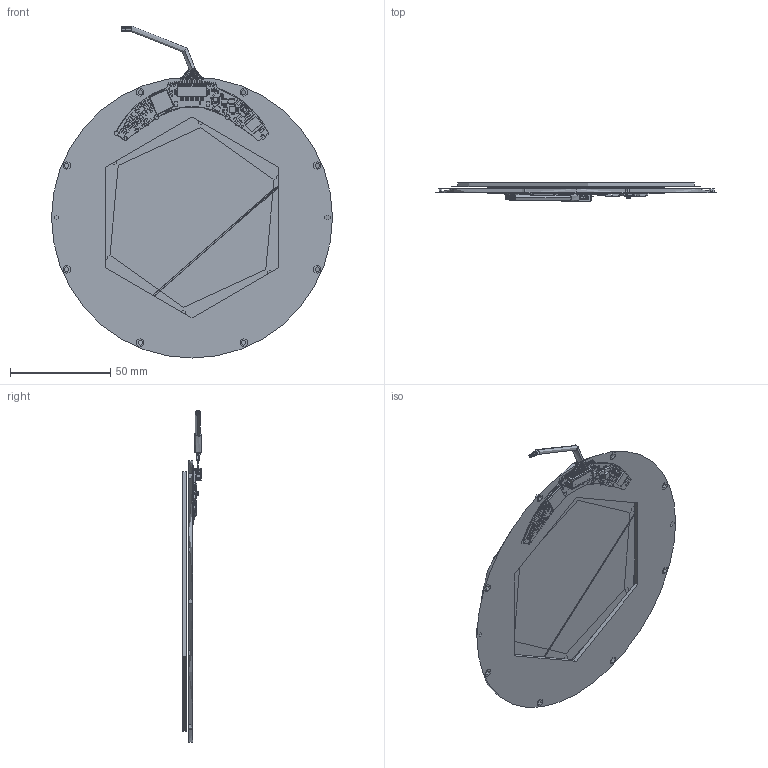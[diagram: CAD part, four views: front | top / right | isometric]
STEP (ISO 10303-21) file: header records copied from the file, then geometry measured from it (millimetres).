
FILE_DESCRIPTION (( 'STEP AP214' ), '1' );
FILE_NAME ('VLX-140.STEP', '2025-03-24T07:28:32', ( '' ), ( '' ), 'SwSTEP 2.0', 'SolidWorks 2022', '' );
FILE_SCHEMA (( 'AUTOMOTIVE_DESIGN' ));
Length unit declared in the file: millimetre
Products named in the file (8): VLX-60-QR Cable; PB-00141; PB-00140; KMR711NGULCLFS; DF13-10P-1.25H; VLX-140; DF13-10S-1.25C; PB-00456-00
Assembly tree (7 placements, depth 2):
  VLX-140
    PB-00140
    PB-00456-00
    PB-00141
    KMR711NGULCLFS
    DF13-10P-1.25H
    DF13-10S-1.25C
    VLX-60-QR Cable
Bounding box: 140 x 9.37 x 165.4 mm (x, y, z)
Topology: 120 solids, 124 shells, 5845 faces, 14426 edges, 9476 vertices
Faces by surface type: plane 3854, cylinder 1919, bspline 57, cone 15
Entity records: 234429 total; most frequent: CARTESIAN_POINT 36351, DIRECTION 29876, ORIENTED_EDGE 28856, EDGE_CURVE 14428, VECTOR 10346, LINE 10346, AXIS2_PLACEMENT_3D 9765, VERTEX_POINT 9550
